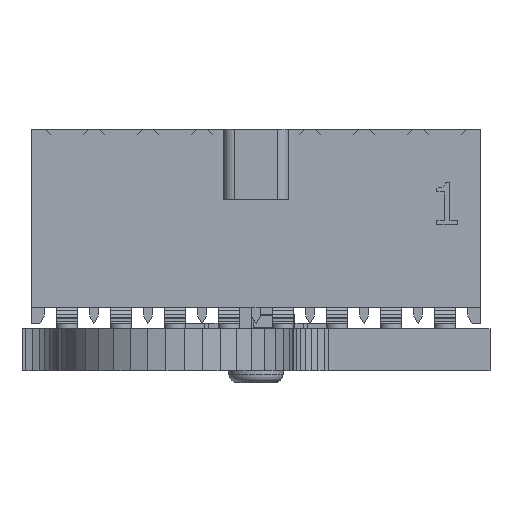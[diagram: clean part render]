
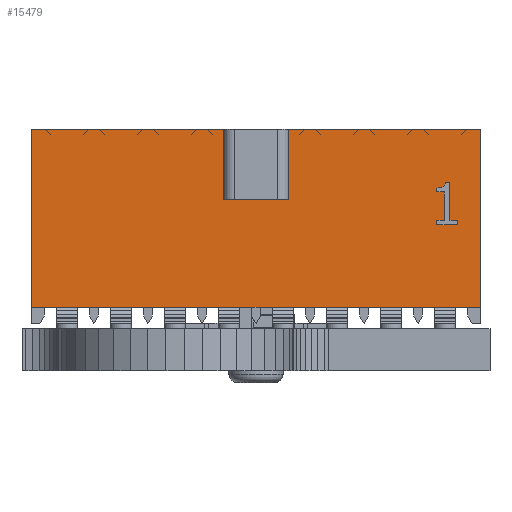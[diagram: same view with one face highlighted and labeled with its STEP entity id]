
A CAD part, left-side view. The second image highlights one B-rep face of the part: STEP entity #15479.
In plain terms, the highlighted planar face has unit normal (-1, 0, 0).
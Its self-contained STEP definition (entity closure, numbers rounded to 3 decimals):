
#23=B_SPLINE_CURVE_WITH_KNOTS('',2,(#22516,#22517,#22518,#22519),
 .UNSPECIFIED.,.F.,.F.,(3,1,3),(0.,1.,2.),.UNSPECIFIED.);
#366=FACE_BOUND('',#2052,.T.);
#1136=FACE_OUTER_BOUND('',#2051,.T.);
#2051=EDGE_LOOP('',(#11009,#11010,#11011,#11012,#11013,#11014,#11015,#11016));
#2052=EDGE_LOOP('',(#11017,#11018,#11019,#11020,#11021,#11022,#11023,#11024,
#11025,#11026,#11027));
#3151=LINE('',#22504,#4988);
#3155=LINE('',#22523,#4992);
#3157=LINE('',#22527,#4994);
#3159=LINE('',#22531,#4996);
#3161=LINE('',#22535,#4998);
#3162=LINE('',#22538,#4999);
#3164=LINE('',#22542,#5001);
#3166=LINE('',#22546,#5003);
#3168=LINE('',#22550,#5005);
#3170=LINE('',#22553,#5007);
#3175=LINE('',#22565,#5012);
#3362=LINE('',#22939,#5199);
#3363=LINE('',#22941,#5200);
#3364=LINE('',#22943,#5201);
#3365=LINE('',#22945,#5202);
#3366=LINE('',#22947,#5203);
#3367=LINE('',#22949,#5204);
#3368=LINE('',#22950,#5205);
#4988=VECTOR('',#18077,1.);
#4992=VECTOR('',#18083,1.);
#4994=VECTOR('',#18087,1.);
#4996=VECTOR('',#18091,1.);
#4998=VECTOR('',#18095,1.);
#4999=VECTOR('',#18098,1.);
#5001=VECTOR('',#18102,1.);
#5003=VECTOR('',#18106,1.);
#5005=VECTOR('',#18110,1.);
#5007=VECTOR('',#18114,1.);
#5012=VECTOR('',#18121,1.);
#5199=VECTOR('',#18312,1.);
#5200=VECTOR('',#18313,1.);
#5201=VECTOR('',#18314,1.);
#5202=VECTOR('',#18315,1.);
#5203=VECTOR('',#18316,1.);
#5204=VECTOR('',#18317,1.);
#5205=VECTOR('',#18318,1.);
#6739=VERTEX_POINT('',#22501);
#6740=VERTEX_POINT('',#22503);
#6741=VERTEX_POINT('',#22514);
#6742=VERTEX_POINT('',#22521);
#6743=VERTEX_POINT('',#22525);
#6744=VERTEX_POINT('',#22529);
#6745=VERTEX_POINT('',#22533);
#6746=VERTEX_POINT('',#22537);
#6747=VERTEX_POINT('',#22541);
#6748=VERTEX_POINT('',#22545);
#6749=VERTEX_POINT('',#22549);
#6754=VERTEX_POINT('',#22562);
#6755=VERTEX_POINT('',#22564);
#6940=VERTEX_POINT('',#22938);
#6941=VERTEX_POINT('',#22940);
#6942=VERTEX_POINT('',#22942);
#6943=VERTEX_POINT('',#22944);
#6944=VERTEX_POINT('',#22946);
#6945=VERTEX_POINT('',#22948);
#8277=EDGE_CURVE('',#6740,#6739,#3151,.T.);
#8280=EDGE_CURVE('',#6739,#6741,#23,.T.);
#8282=EDGE_CURVE('',#6741,#6742,#3155,.T.);
#8284=EDGE_CURVE('',#6742,#6743,#3157,.T.);
#8286=EDGE_CURVE('',#6743,#6744,#3159,.T.);
#8288=EDGE_CURVE('',#6744,#6745,#3161,.T.);
#8289=EDGE_CURVE('',#6746,#6740,#3162,.T.);
#8291=EDGE_CURVE('',#6747,#6746,#3164,.T.);
#8293=EDGE_CURVE('',#6748,#6747,#3166,.T.);
#8295=EDGE_CURVE('',#6749,#6748,#3168,.T.);
#8297=EDGE_CURVE('',#6745,#6749,#3170,.T.);
#8302=EDGE_CURVE('',#6755,#6754,#3175,.T.);
#8489=EDGE_CURVE('',#6940,#6754,#3362,.T.);
#8490=EDGE_CURVE('',#6941,#6940,#3363,.T.);
#8491=EDGE_CURVE('',#6942,#6941,#3364,.T.);
#8492=EDGE_CURVE('',#6943,#6942,#3365,.T.);
#8493=EDGE_CURVE('',#6944,#6943,#3366,.T.);
#8494=EDGE_CURVE('',#6945,#6944,#3367,.T.);
#8495=EDGE_CURVE('',#6945,#6755,#3368,.T.);
#11009=ORIENTED_EDGE('',*,*,#8302,.T.);
#11010=ORIENTED_EDGE('',*,*,#8489,.F.);
#11011=ORIENTED_EDGE('',*,*,#8490,.F.);
#11012=ORIENTED_EDGE('',*,*,#8491,.F.);
#11013=ORIENTED_EDGE('',*,*,#8492,.F.);
#11014=ORIENTED_EDGE('',*,*,#8493,.F.);
#11015=ORIENTED_EDGE('',*,*,#8494,.F.);
#11016=ORIENTED_EDGE('',*,*,#8495,.T.);
#11017=ORIENTED_EDGE('',*,*,#8277,.T.);
#11018=ORIENTED_EDGE('',*,*,#8280,.T.);
#11019=ORIENTED_EDGE('',*,*,#8282,.T.);
#11020=ORIENTED_EDGE('',*,*,#8284,.T.);
#11021=ORIENTED_EDGE('',*,*,#8286,.T.);
#11022=ORIENTED_EDGE('',*,*,#8288,.T.);
#11023=ORIENTED_EDGE('',*,*,#8297,.T.);
#11024=ORIENTED_EDGE('',*,*,#8295,.T.);
#11025=ORIENTED_EDGE('',*,*,#8293,.T.);
#11026=ORIENTED_EDGE('',*,*,#8291,.T.);
#11027=ORIENTED_EDGE('',*,*,#8289,.T.);
#14802=PLANE('',#16451);
#15479=ADVANCED_FACE('',(#1136,#366),#14802,.T.);
#16451=AXIS2_PLACEMENT_3D('',#22937,#18310,#18311);
#18077=DIRECTION('',(0.,0.,1.));
#18083=DIRECTION('',(0.,-1.,0.));
#18087=DIRECTION('',(0.,0.,-1.));
#18091=DIRECTION('',(0.,-1.,0.));
#18095=DIRECTION('',(0.,0.,-1.));
#18098=DIRECTION('',(0.,1.,0.));
#18102=DIRECTION('',(0.,0.,1.));
#18106=DIRECTION('',(0.,-1.,0.));
#18110=DIRECTION('',(0.,0.,1.));
#18114=DIRECTION('',(0.,1.,0.));
#18121=DIRECTION('',(0.,-1.,0.));
#18310=DIRECTION('center_axis',(-1.,0.,
0.));
#18311=DIRECTION('ref_axis',(0.,1.,0.));
#18312=DIRECTION('',(0.,0.,-1.));
#18313=DIRECTION('',(0.,-1.,0.));
#18314=DIRECTION('',(0.,0.,1.));
#18315=DIRECTION('',(0.,-1.,0.));
#18316=DIRECTION('',(0.,0.,-1.));
#18317=DIRECTION('',(0.,-1.,0.));
#18318=DIRECTION('',(0.,0.,-1.));
#22501=CARTESIAN_POINT('',(8.226,1.252,3.311));
#22503=CARTESIAN_POINT('',(8.226,1.252,3.219));
#22504=CARTESIAN_POINT('',(8.226,1.252,4.005));
#22514=CARTESIAN_POINT('',(8.226,1.045,3.45));
#22516=CARTESIAN_POINT('Ctrl Pts',(8.226,1.252,3.311));
#22517=CARTESIAN_POINT('Ctrl Pts',(8.226,1.149,3.311));
#22518=CARTESIAN_POINT('Ctrl Pts',(8.226,1.052,3.369));
#22519=CARTESIAN_POINT('Ctrl Pts',(8.226,1.045,3.45));
#22521=CARTESIAN_POINT('',(8.226,0.941,3.45));
#22523=CARTESIAN_POINT('',(8.226,5.856,3.45));
#22525=CARTESIAN_POINT('',(8.226,0.941,2.549));
#22527=CARTESIAN_POINT('',(8.226,0.941,3.624));
#22529=CARTESIAN_POINT('',(8.226,0.764,2.549));
#22531=CARTESIAN_POINT('',(8.226,5.767,2.549));
#22533=CARTESIAN_POINT('',(8.226,0.764,2.447));
#22535=CARTESIAN_POINT('',(8.226,0.764,3.573));
#22537=CARTESIAN_POINT('',(8.226,1.07,3.219));
#22538=CARTESIAN_POINT('',(8.226,6.011,3.219));
#22541=CARTESIAN_POINT('',(8.226,1.07,2.549));
#22542=CARTESIAN_POINT('',(8.226,1.07,3.959));
#22545=CARTESIAN_POINT('',(8.226,1.252,2.549));
#22546=CARTESIAN_POINT('',(8.226,5.92,2.549));
#22549=CARTESIAN_POINT('',(8.226,1.252,2.447));
#22550=CARTESIAN_POINT('',(8.226,1.252,3.624));
#22553=CARTESIAN_POINT('',(8.226,6.011,2.447));
#22562=CARTESIAN_POINT('',(8.226,0.229,0.508));
#22564=CARTESIAN_POINT('',(8.226,10.77,0.508));
#22565=CARTESIAN_POINT('',(8.226,10.77,0.508));
#22937=CARTESIAN_POINT('Origin',(8.226,10.77,4.699));
#22938=CARTESIAN_POINT('',(8.226,0.229,4.699));
#22939=CARTESIAN_POINT('',(8.226,0.229,4.699));
#22940=CARTESIAN_POINT('',(8.226,4.738,4.699));
#22941=CARTESIAN_POINT('',(8.226,10.77,4.699));
#22942=CARTESIAN_POINT('',(8.226,4.738,3.048));
#22943=CARTESIAN_POINT('',(8.226,4.738,4.699));
#22944=CARTESIAN_POINT('',(8.226,6.262,3.048));
#22945=CARTESIAN_POINT('',(8.226,6.262,3.048));
#22946=CARTESIAN_POINT('',(8.226,6.262,4.699));
#22947=CARTESIAN_POINT('',(8.226,6.262,4.699));
#22948=CARTESIAN_POINT('',(8.226,10.77,4.699));
#22949=CARTESIAN_POINT('',(8.226,10.77,4.699));
#22950=CARTESIAN_POINT('',(8.226,10.77,4.699));
